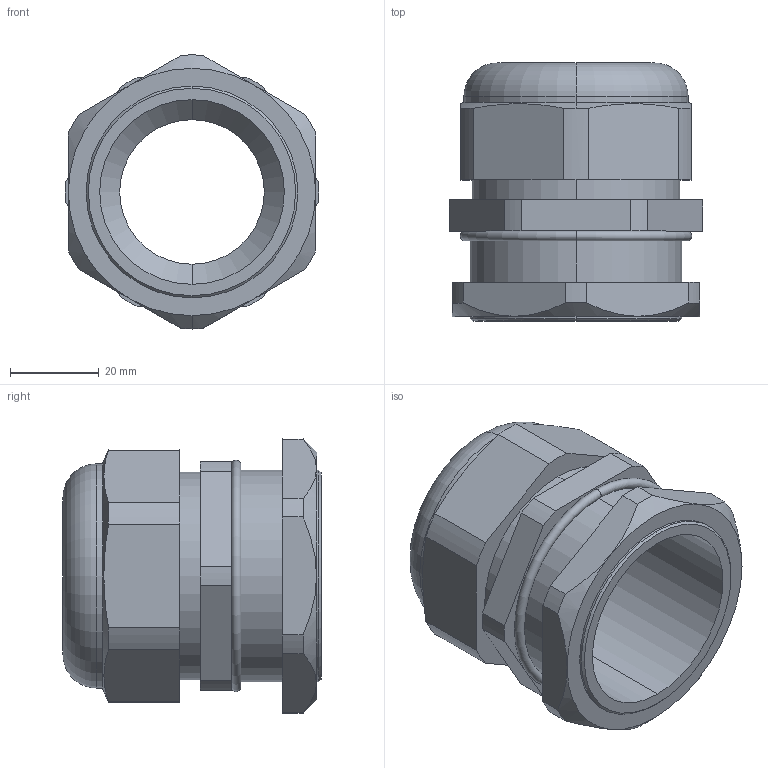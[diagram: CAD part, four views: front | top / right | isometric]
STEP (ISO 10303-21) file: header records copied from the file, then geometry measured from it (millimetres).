
FILE_DESCRIPTION (( 'STEP AP203' ), '1' );
FILE_NAME ('CH-B1-1_2.STEP', '2018-02-07T14:50:53', ( '' ), ( '' ), 'SwSTEP 2.0', 'SolidWorks 2012', '' );
FILE_SCHEMA (( 'CONFIG_CONTROL_DESIGN' ));
Length unit declared in the file: millimetre
Products named in the file (1): CH-B1-1_2
Bounding box: 57.08 x 58 x 61.59 mm (x, y, z)
Volume: 56495.7 mm3; surface area: 21688.5 mm2
Topology: 1 solids, 1 shells, 78 faces, 189 edges, 118 vertices
Faces by surface type: cylinder 34, plane 25, cone 15, torus 4
Entity records: 2490 total; most frequent: CARTESIAN_POINT 544, DIRECTION 415, ORIENTED_EDGE 378, EDGE_CURVE 189, AXIS2_PLACEMENT_3D 165, VERTEX_POINT 118, CIRCLE 86, VECTOR 85
